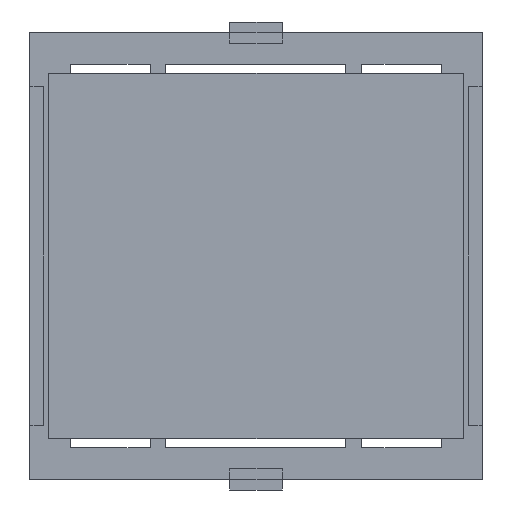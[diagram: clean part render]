
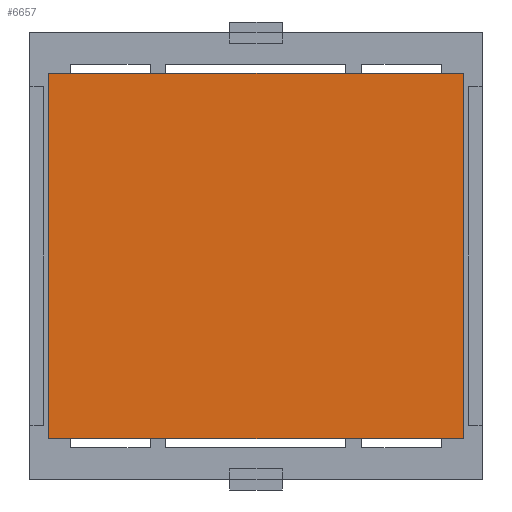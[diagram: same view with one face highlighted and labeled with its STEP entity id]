
A CAD part, front view. The second image highlights one B-rep face of the part: STEP entity #6657.
In plain terms, the highlighted planar face has unit normal (0, -1, 0).
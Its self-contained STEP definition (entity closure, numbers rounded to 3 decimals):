
#13 = ORIENTED_EDGE ( 'NONE', *, *, #18, .F. ) ;
#18 = EDGE_CURVE ( 'NONE', #2423, #3363, #5286, .T. ) ;
#81 = VECTOR ( 'NONE', #341, 1000. ) ;
#124 = EDGE_LOOP ( 'NONE', ( #1728, #13, #6458, #3832 ) ) ;
#206 = DIRECTION ( 'NONE',  ( 0., 0., 1. ) ) ;
#341 = DIRECTION ( 'NONE',  ( 1., 0., 0. ) ) ;
#764 = CARTESIAN_POINT ( 'NONE',  ( -19.558, -0.127, 17.272 ) ) ;
#806 = CARTESIAN_POINT ( 'NONE',  ( -19.558, -0.127, -17.272 ) ) ;
#877 = CARTESIAN_POINT ( 'NONE',  ( -19.558, -0.127, -17.272 ) ) ;
#1625 = CARTESIAN_POINT ( 'NONE',  ( -19.558, -0.127, 17.272 ) ) ;
#1709 = EDGE_CURVE ( 'NONE', #2491, #2423, #6036, .T. ) ;
#1728 = ORIENTED_EDGE ( 'NONE', *, *, #5167, .F. ) ;
#2035 = DIRECTION ( 'NONE',  ( 0., 0., -1. ) ) ;
#2243 = VERTEX_POINT ( 'NONE', #3884 ) ;
#2332 = CARTESIAN_POINT ( 'NONE',  ( 19.558, -0.127, 17.272 ) ) ;
#2393 = DIRECTION ( 'NONE',  ( -1., 0., 0. ) ) ;
#2423 = VERTEX_POINT ( 'NONE', #6439 ) ;
#2491 = VERTEX_POINT ( 'NONE', #2332 ) ;
#2579 = LINE ( 'NONE', #877, #6278 ) ;
#3145 = CARTESIAN_POINT ( 'NONE',  ( 19.558, -0.127, -17.272 ) ) ;
#3363 = VERTEX_POINT ( 'NONE', #5445 ) ;
#3599 = EDGE_CURVE ( 'NONE', #2243, #2491, #6736, .T. ) ;
#3635 = DIRECTION ( 'NONE',  ( 0., 1., 0. ) ) ;
#3673 = DIRECTION ( 'NONE',  ( 0., 0., 1. ) ) ;
#3832 = ORIENTED_EDGE ( 'NONE', *, *, #3599, .F. ) ;
#3884 = CARTESIAN_POINT ( 'NONE',  ( -19.558, -0.127, 17.272 ) ) ;
#5167 = EDGE_CURVE ( 'NONE', #3363, #2243, #2579, .T. ) ;
#5286 = LINE ( 'NONE', #806, #6619 ) ;
#5445 = CARTESIAN_POINT ( 'NONE',  ( -19.558, -0.127, -17.272 ) ) ;
#5644 = AXIS2_PLACEMENT_3D ( 'NONE', #764, #3635, #3673 ) ;
#5810 = FACE_OUTER_BOUND ( 'NONE', #124, .T. ) ;
#5824 = VECTOR ( 'NONE', #2035, 1000. ) ;
#5844 = PLANE ( 'NONE',  #5644 ) ;
#6036 = LINE ( 'NONE', #3145, #5824 ) ;
#6278 = VECTOR ( 'NONE', #206, 1000. ) ;
#6439 = CARTESIAN_POINT ( 'NONE',  ( 19.558, -0.127, -17.272 ) ) ;
#6458 = ORIENTED_EDGE ( 'NONE', *, *, #1709, .F. ) ;
#6619 = VECTOR ( 'NONE', #2393, 1000. ) ;
#6657 = ADVANCED_FACE ( 'NONE', ( #5810 ), #5844, .F. ) ;
#6736 = LINE ( 'NONE', #1625, #81 ) ;
